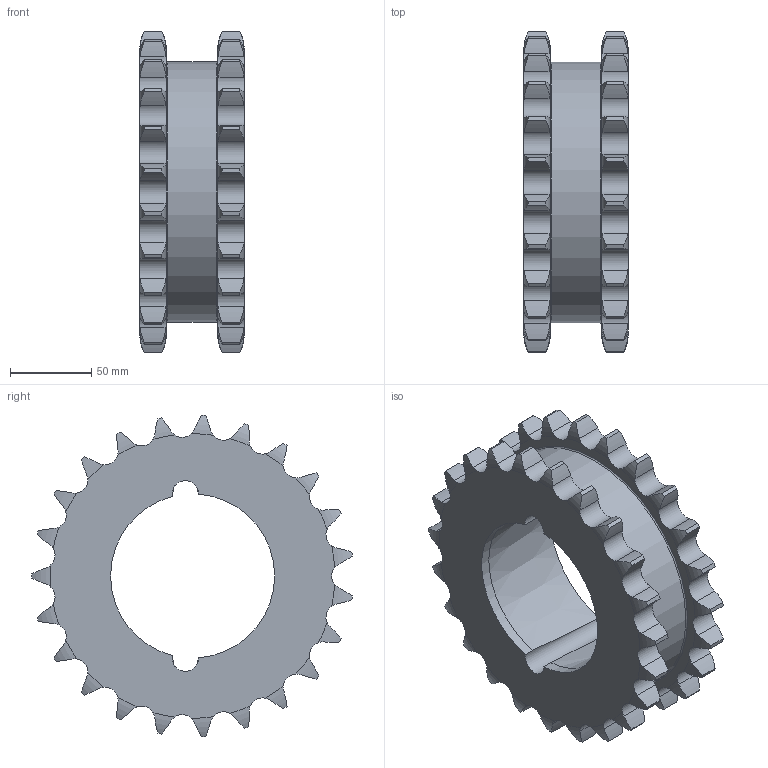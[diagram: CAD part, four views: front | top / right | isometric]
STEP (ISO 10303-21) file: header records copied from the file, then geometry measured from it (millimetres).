
FILE_DESCRIPTION(/* description */ (''),/* implementation_level */ '2;1');
FILE_NAME(/* name */ 'C:\Users\stagistaCAD\Desktop\Nuova cartella\27225023.stp',/* time_stamp */ '2018-06-25T10:53:48+02:00',/* author */ ('stagistacad'),/* organization */ (''),/* preprocessor_version */ 'ST-DEVELOPER v15.6',/* originating_system */ 'Autodesk Inventor 2015',/* authorisation */ '');
FILE_SCHEMA (('AUTOMOTIVE_DESIGN { 1 0 10303 214 3 1 1 }'));
Length unit declared in the file: millimetre
Products named in the file (1): 27225023
Bounding box: 64 x 196.9 x 197.35 mm (x, y, z)
Volume: 901917.6 mm3; surface area: 109868.6 mm2
Topology: 1 solids, 1 shells, 291 faces, 859 edges, 572 vertices
Faces by surface type: cylinder 190, torus 94, plane 4, cone 3
Full cylindrical faces by diameter (mm): 160 x1
Entity records: 10856 total; most frequent: CARTESIAN_POINT 3523, ORIENTED_EDGE 1712, DIRECTION 1358, EDGE_CURVE 856, AXIS2_PLACEMENT_3D 585, VERTEX_POINT 572, B_SPLINE_CURVE_WITH_KNOTS 375, EDGE_LOOP 298
